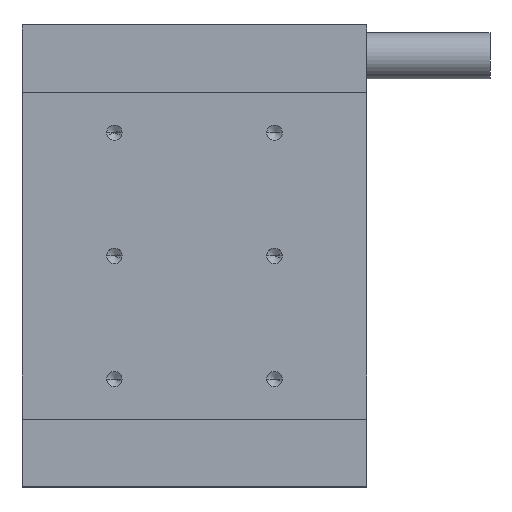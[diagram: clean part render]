
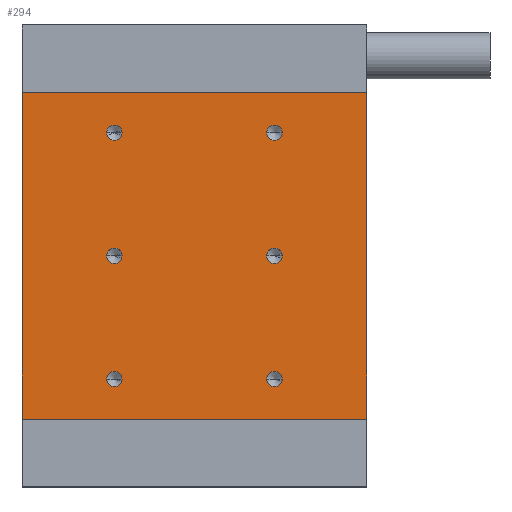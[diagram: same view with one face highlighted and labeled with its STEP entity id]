
A CAD part, top view. The second image highlights one B-rep face of the part: STEP entity #294.
In plain terms, the highlighted planar face has unit normal (0, 0, 1).
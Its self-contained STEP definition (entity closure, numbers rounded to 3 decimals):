
#69 = DIRECTION ( 'NONE',  ( 0., 0., 1. ) ) ;
#78 = CARTESIAN_POINT ( 'NONE',  ( -28., -26.5, 23.2 ) ) ;
#99 = CARTESIAN_POINT ( 'NONE',  ( 11.75, 20., 23.2 ) ) ;
#101 = VERTEX_POINT ( 'NONE', #931 ) ;
#114 = DIRECTION ( 'NONE',  ( 1., 0., 0. ) ) ;
#127 = VERTEX_POINT ( 'NONE', #1359 ) ;
#162 = EDGE_CURVE ( 'NONE', #1051, #1490, #1320, .T. ) ;
#165 = EDGE_LOOP ( 'NONE', ( #471, #279 ) ) ;
#180 = DIRECTION ( 'NONE',  ( 1., 0., 0. ) ) ;
#194 = ORIENTED_EDGE ( 'NONE', *, *, #1823, .T. ) ;
#198 = DIRECTION ( 'NONE',  ( 1., 0., 0. ) ) ;
#202 = DIRECTION ( 'NONE',  ( 0., 0., 1. ) ) ;
#206 = CARTESIAN_POINT ( 'NONE',  ( -28., 26.5, 23.2 ) ) ;
#208 = CARTESIAN_POINT ( 'NONE',  ( -14.25, 0., 23.2 ) ) ;
#211 = DIRECTION ( 'NONE',  ( 1., 0., 0. ) ) ;
#275 = DIRECTION ( 'NONE',  ( 0., -1., 0. ) ) ;
#279 = ORIENTED_EDGE ( 'NONE', *, *, #1428, .F. ) ;
#294 = ADVANCED_FACE ( 'NONE', ( #1826, #1780, #1389, #1000, #619, #1135, #761 ), #1099, .T. ) ;
#299 = LINE ( 'NONE', #676, #1275 ) ;
#325 = VERTEX_POINT ( 'NONE', #1381 ) ;
#339 = DIRECTION ( 'NONE',  ( 1., 0., 0. ) ) ;
#343 = EDGE_CURVE ( 'NONE', #1743, #1423, #1065, .T. ) ;
#357 = DIRECTION ( 'NONE',  ( 1., 0., 0. ) ) ;
#371 = DIRECTION ( 'NONE',  ( 1., 0., 0. ) ) ;
#373 = CIRCLE ( 'NONE', #863, 1.25 ) ;
#396 = CIRCLE ( 'NONE', #1143, 1.25 ) ;
#401 = ORIENTED_EDGE ( 'NONE', *, *, #623, .F. ) ;
#424 = ORIENTED_EDGE ( 'NONE', *, *, #343, .F. ) ;
#447 = EDGE_LOOP ( 'NONE', ( #573, #774 ) ) ;
#471 = ORIENTED_EDGE ( 'NONE', *, *, #1432, .F. ) ;
#473 = LINE ( 'NONE', #844, #1453 ) ;
#491 = CIRCLE ( 'NONE', #1503, 1.25 ) ;
#501 = CARTESIAN_POINT ( 'NONE',  ( -13., -20., 23.2 ) ) ;
#518 = VERTEX_POINT ( 'NONE', #581 ) ;
#522 = CARTESIAN_POINT ( 'NONE',  ( 13., -20., 23.2 ) ) ;
#560 = CIRCLE ( 'NONE', #1634, 1.25 ) ;
#573 = ORIENTED_EDGE ( 'NONE', *, *, #1259, .F. ) ;
#574 = CARTESIAN_POINT ( 'NONE',  ( -14.25, 20., 23.2 ) ) ;
#581 = CARTESIAN_POINT ( 'NONE',  ( 14.25, -20., 23.2 ) ) ;
#588 = ORIENTED_EDGE ( 'NONE', *, *, #1484, .T. ) ;
#599 = AXIS2_PLACEMENT_3D ( 'NONE', #501, #202, #793 ) ;
#607 = CIRCLE ( 'NONE', #599, 1.25 ) ;
#619 = FACE_BOUND ( 'NONE', #1338, .T. ) ;
#623 = EDGE_CURVE ( 'NONE', #101, #677, #693, .T. ) ;
#625 = CARTESIAN_POINT ( 'NONE',  ( 11.75, 0., 23.2 ) ) ;
#643 = DIRECTION ( 'NONE',  ( 0., 0., 1. ) ) ;
#652 = CARTESIAN_POINT ( 'NONE',  ( 28., 26.5, 23.2 ) ) ;
#660 = EDGE_CURVE ( 'NONE', #991, #127, #299, .T. ) ;
#661 = CARTESIAN_POINT ( 'NONE',  ( -28., 26.5, 23.2 ) ) ;
#663 = DIRECTION ( 'NONE',  ( 0., 0., 1. ) ) ;
#676 = CARTESIAN_POINT ( 'NONE',  ( -28., 26.5, 23.2 ) ) ;
#677 = VERTEX_POINT ( 'NONE', #574 ) ;
#680 = DIRECTION ( 'NONE',  ( 0., 0., 1. ) ) ;
#693 = CIRCLE ( 'NONE', #950, 1.25 ) ;
#720 = DIRECTION ( 'NONE',  ( 0., 0., 1. ) ) ;
#730 = AXIS2_PLACEMENT_3D ( 'NONE', #935, #69, #792 ) ;
#737 = AXIS2_PLACEMENT_3D ( 'NONE', #1848, #1242, #371 ) ;
#746 = CIRCLE ( 'NONE', #730, 1.25 ) ;
#761 = FACE_OUTER_BOUND ( 'NONE', #1692, .T. ) ;
#774 = ORIENTED_EDGE ( 'NONE', *, *, #1231, .F. ) ;
#776 = CARTESIAN_POINT ( 'NONE',  ( -14.25, -20., 23.2 ) ) ;
#792 = DIRECTION ( 'NONE',  ( 1., 0., 0. ) ) ;
#793 = DIRECTION ( 'NONE',  ( 1., 0., 0. ) ) ;
#799 = DIRECTION ( 'NONE',  ( -1., 0., 0. ) ) ;
#808 = DIRECTION ( 'NONE',  ( 1., 0., 0. ) ) ;
#819 = DIRECTION ( 'NONE',  ( 1., 0., 0. ) ) ;
#826 = CIRCLE ( 'NONE', #737, 1.25 ) ;
#844 = CARTESIAN_POINT ( 'NONE',  ( 28., 26.5, 23.2 ) ) ;
#853 = VERTEX_POINT ( 'NONE', #625 ) ;
#863 = AXIS2_PLACEMENT_3D ( 'NONE', #1799, #643, #357 ) ;
#897 = VERTEX_POINT ( 'NONE', #776 ) ;
#902 = EDGE_CURVE ( 'NONE', #677, #101, #560, .T. ) ;
#911 = CARTESIAN_POINT ( 'NONE',  ( 13., 20., 23.2 ) ) ;
#931 = CARTESIAN_POINT ( 'NONE',  ( -11.75, 20., 23.2 ) ) ;
#935 = CARTESIAN_POINT ( 'NONE',  ( 13., 0., 23.2 ) ) ;
#940 = ORIENTED_EDGE ( 'NONE', *, *, #1869, .T. ) ;
#948 = DIRECTION ( 'NONE',  ( 1., 0., 0. ) ) ;
#950 = AXIS2_PLACEMENT_3D ( 'NONE', #1580, #720, #114 ) ;
#968 = AXIS2_PLACEMENT_3D ( 'NONE', #1523, #663, #1672 ) ;
#976 = EDGE_CURVE ( 'NONE', #1323, #853, #746, .T. ) ;
#991 = VERTEX_POINT ( 'NONE', #661 ) ;
#994 = EDGE_CURVE ( 'NONE', #853, #1323, #396, .T. ) ;
#1000 = FACE_BOUND ( 'NONE', #1624, .T. ) ;
#1002 = CARTESIAN_POINT ( 'NONE',  ( -11.75, 0., 23.2 ) ) ;
#1018 = DIRECTION ( 'NONE',  ( 0., 0., 1. ) ) ;
#1039 = ORIENTED_EDGE ( 'NONE', *, *, #994, .F. ) ;
#1041 = CARTESIAN_POINT ( 'NONE',  ( 28., -26.5, 23.2 ) ) ;
#1051 = VERTEX_POINT ( 'NONE', #208 ) ;
#1065 = CIRCLE ( 'NONE', #968, 1.25 ) ;
#1072 = VERTEX_POINT ( 'NONE', #652 ) ;
#1099 = PLANE ( 'NONE',  #1187 ) ;
#1135 = FACE_BOUND ( 'NONE', #165, .T. ) ;
#1143 = AXIS2_PLACEMENT_3D ( 'NONE', #1369, #1675, #808 ) ;
#1145 = CARTESIAN_POINT ( 'NONE',  ( -11.75, -20., 23.2 ) ) ;
#1151 = AXIS2_PLACEMENT_3D ( 'NONE', #522, #680, #819 ) ;
#1162 = ORIENTED_EDGE ( 'NONE', *, *, #1565, .F. ) ;
#1187 = AXIS2_PLACEMENT_3D ( 'NONE', #1668, #1224, #948 ) ;
#1201 = CARTESIAN_POINT ( 'NONE',  ( -13., 20., 23.2 ) ) ;
#1205 = DIRECTION ( 'NONE',  ( 0., 0., 1. ) ) ;
#1224 = DIRECTION ( 'NONE',  ( 0., 0., 1. ) ) ;
#1231 = EDGE_CURVE ( 'NONE', #897, #1516, #373, .T. ) ;
#1242 = DIRECTION ( 'NONE',  ( 0., 0., 1. ) ) ;
#1259 = EDGE_CURVE ( 'NONE', #1516, #897, #607, .T. ) ;
#1273 = AXIS2_PLACEMENT_3D ( 'NONE', #1317, #1018, #1604 ) ;
#1275 = VECTOR ( 'NONE', #275, 1000. ) ;
#1279 = DIRECTION ( 'NONE',  ( 0., 1., 0. ) ) ;
#1285 = LINE ( 'NONE', #78, #1839 ) ;
#1290 = CIRCLE ( 'NONE', #1273, 1.25 ) ;
#1317 = CARTESIAN_POINT ( 'NONE',  ( -13., 0., 23.2 ) ) ;
#1320 = CIRCLE ( 'NONE', #1894, 1.25 ) ;
#1323 = VERTEX_POINT ( 'NONE', #1681 ) ;
#1335 = DIRECTION ( 'NONE',  ( 0., 0., 1. ) ) ;
#1338 = EDGE_LOOP ( 'NONE', ( #1446, #1039 ) ) ;
#1347 = CARTESIAN_POINT ( 'NONE',  ( -13., 0., 23.2 ) ) ;
#1352 = DIRECTION ( 'NONE',  ( 0., 0., 1. ) ) ;
#1359 = CARTESIAN_POINT ( 'NONE',  ( -28., -26.5, 23.2 ) ) ;
#1369 = CARTESIAN_POINT ( 'NONE',  ( 13., 0., 23.2 ) ) ;
#1381 = CARTESIAN_POINT ( 'NONE',  ( 11.75, -20., 23.2 ) ) ;
#1389 = FACE_BOUND ( 'NONE', #447, .T. ) ;
#1423 = VERTEX_POINT ( 'NONE', #99 ) ;
#1428 = EDGE_CURVE ( 'NONE', #325, #518, #826, .T. ) ;
#1432 = EDGE_CURVE ( 'NONE', #518, #325, #1556, .T. ) ;
#1446 = ORIENTED_EDGE ( 'NONE', *, *, #976, .F. ) ;
#1453 = VECTOR ( 'NONE', #1279, 1000. ) ;
#1484 = EDGE_CURVE ( 'NONE', #1632, #1072, #473, .T. ) ;
#1490 = VERTEX_POINT ( 'NONE', #1002 ) ;
#1503 = AXIS2_PLACEMENT_3D ( 'NONE', #911, #1205, #339 ) ;
#1504 = ORIENTED_EDGE ( 'NONE', *, *, #162, .F. ) ;
#1516 = VERTEX_POINT ( 'NONE', #1145 ) ;
#1523 = CARTESIAN_POINT ( 'NONE',  ( 13., 20., 23.2 ) ) ;
#1556 = CIRCLE ( 'NONE', #1151, 1.25 ) ;
#1561 = EDGE_LOOP ( 'NONE', ( #401, #1857 ) ) ;
#1565 = EDGE_CURVE ( 'NONE', #1490, #1051, #1290, .T. ) ;
#1580 = CARTESIAN_POINT ( 'NONE',  ( -13., 20., 23.2 ) ) ;
#1604 = DIRECTION ( 'NONE',  ( 1., 0., 0. ) ) ;
#1612 = EDGE_LOOP ( 'NONE', ( #1162, #1504 ) ) ;
#1624 = EDGE_LOOP ( 'NONE', ( #424, #1645 ) ) ;
#1628 = VECTOR ( 'NONE', #799, 1000. ) ;
#1632 = VERTEX_POINT ( 'NONE', #1041 ) ;
#1634 = AXIS2_PLACEMENT_3D ( 'NONE', #1201, #1335, #180 ) ;
#1636 = CARTESIAN_POINT ( 'NONE',  ( 14.25, 20., 23.2 ) ) ;
#1645 = ORIENTED_EDGE ( 'NONE', *, *, #1704, .F. ) ;
#1668 = CARTESIAN_POINT ( 'NONE',  ( 0., 0., 23.2 ) ) ;
#1672 = DIRECTION ( 'NONE',  ( 1., 0., 0. ) ) ;
#1675 = DIRECTION ( 'NONE',  ( 0., 0., 1. ) ) ;
#1681 = CARTESIAN_POINT ( 'NONE',  ( 14.25, 0., 23.2 ) ) ;
#1692 = EDGE_LOOP ( 'NONE', ( #1792, #940, #588, #194 ) ) ;
#1699 = LINE ( 'NONE', #206, #1628 ) ;
#1704 = EDGE_CURVE ( 'NONE', #1423, #1743, #491, .T. ) ;
#1743 = VERTEX_POINT ( 'NONE', #1636 ) ;
#1780 = FACE_BOUND ( 'NONE', #1612, .T. ) ;
#1792 = ORIENTED_EDGE ( 'NONE', *, *, #660, .T. ) ;
#1799 = CARTESIAN_POINT ( 'NONE',  ( -13., -20., 23.2 ) ) ;
#1823 = EDGE_CURVE ( 'NONE', #1072, #991, #1699, .T. ) ;
#1826 = FACE_BOUND ( 'NONE', #1561, .T. ) ;
#1839 = VECTOR ( 'NONE', #211, 1000. ) ;
#1848 = CARTESIAN_POINT ( 'NONE',  ( 13., -20., 23.2 ) ) ;
#1857 = ORIENTED_EDGE ( 'NONE', *, *, #902, .F. ) ;
#1869 = EDGE_CURVE ( 'NONE', #127, #1632, #1285, .T. ) ;
#1894 = AXIS2_PLACEMENT_3D ( 'NONE', #1347, #1352, #198 ) ;
